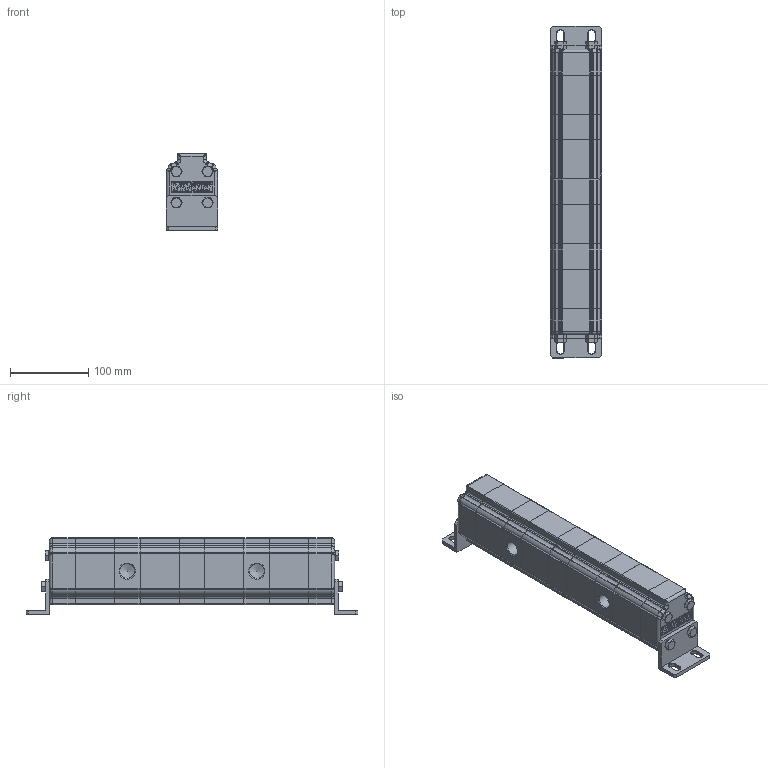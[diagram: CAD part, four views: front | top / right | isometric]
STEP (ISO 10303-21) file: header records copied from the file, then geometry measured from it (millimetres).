
FILE_DESCRIPTION(/* description */ ('Unknown'),/* implementation_level */ '2;1');
FILE_NAME(/* name */ '9RD0423',/* time_stamp */ '2020-04-14T13:09:49+02:00',/* author */ ('Unknown'),/* organization */ ('Unknown'),/* preprocessor_version */ 'ST-DEVELOPER v16.7',/* originating_system */ 'DEX',/* authorisation */ $);
FILE_SCHEMA (('AP242_MANAGED_MODEL_BASED_3D_ENGINEERING_MIM_LF { 1 0 10303 442 1 1 4 }','AUTOMOTIVE_DESIGN {1 0 10303 214 3 1 1}'));
Length unit declared in the file: millimetre
Products named in the file (1): RV-1D
Bounding box: 66 x 425 x 98.5 mm (x, y, z)
Volume: 1798807.2 mm3; surface area: 133553.4 mm2
Topology: 1 solids, 1 shells, 918 faces, 2488 edges, 1584 vertices
Faces by surface type: cylinder 412, plane 374, bspline 64, cone 36, torus 32
Full cylindrical faces by diameter (mm): 12 x8, 14.95 x8, 18.631 x4
Entity records: 36865 total; most frequent: CARTESIAN_POINT 7373, DIRECTION 4938, ORIENTED_EDGE 4776, EDGE_CURVE 2388, AXIS2_PLACEMENT_3D 1791, VERTEX_POINT 1562, LINE 1356, VECTOR 1356
